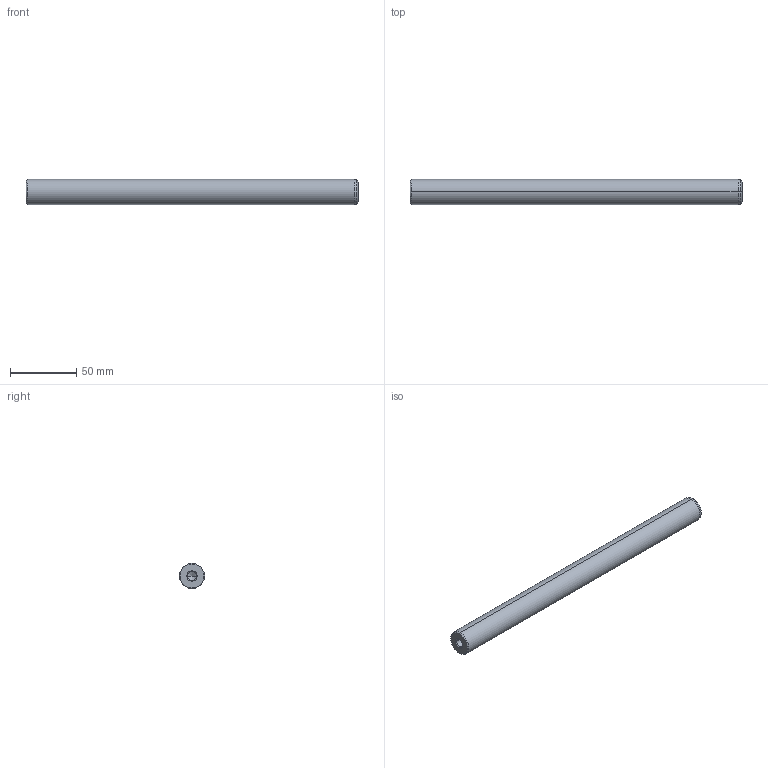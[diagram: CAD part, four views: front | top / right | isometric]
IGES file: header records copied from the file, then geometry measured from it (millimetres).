
Start section: START RECORD GO HERE.
Global section: file name: 720-19x250.igs; native system: DASSAULT SYSTEMES CATIA V5 R20 - www.3ds.com; preprocessor: CATIA Version 5 Release 20 ; author: Utente; organization: NB04-ASUS; date: 20210101.140358; units: millimetre
Bounding box: 250 x 19 x 19 mm (x, y, z)
Surface area: 16387.8 mm2 (no closed solid volume)
Topology: 0 solids, 0 shells, 22 faces, 108 edges, 104 vertices
Faces by surface type: revolution 20, plane 2
